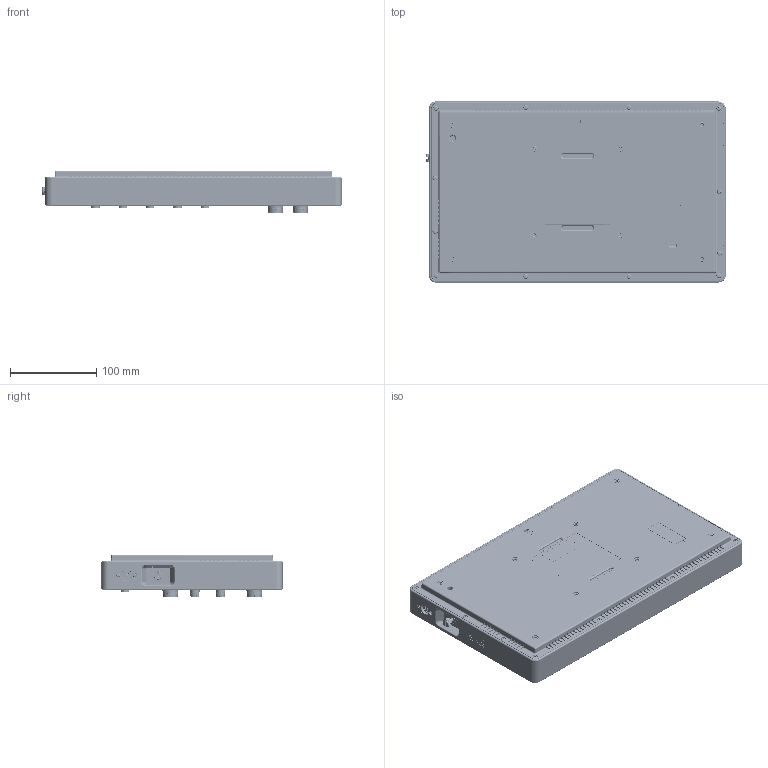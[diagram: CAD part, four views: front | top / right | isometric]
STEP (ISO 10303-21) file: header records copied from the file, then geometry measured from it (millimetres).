
FILE_DESCRIPTION((''),'2;1');
FILE_NAME('2-SERIES_MSO_SIMPLIFIED_ASM','2023-03-27T14:32:22',('mthomps2'),(''),'CREO PARAMETRIC BY PTC INC, 2022284','CREO PARAMETRIC BY PTC INC, 2022284','');
FILE_SCHEMA(('CONFIG_CONTROL_DESIGN','SHAPE_APPEARANCE_LAYERS_GROUPS'));
Products named in the file (24): SIMPLIFIED_MODEL_LXN_1_1; SIMPLIFIED_MODEL_LXN_1_2; SIMPLIFIED_MODEL_LXN_1_3; SIMPLIFIED_MODEL_LXN_1_4; SIMPLIFIED_MODEL_LXN_1_5; SIMPLIFIED_MODEL_LXN_1_6; SIMPLIFIED_MODEL_LXN_1_7; SIMPLIFIED_MODEL_LXN_1_8; SIMPLIFIED_MODEL_LXN_1_9; SIMPLIFIED_MODEL_LXN_1_10; SIMPLIFIED_MODEL_LXN_1_11; SIMPLIFIED_MODEL_LXN_1_12; SIMPLIFIED_MODEL_LXN_1_13; SIMPLIFIED_MODEL_LXN_1_14; SIMPLIFIED_MODEL_LXN_1_15; SIMPLIFIED_MODEL_LXN_1_16; SIMPLIFIED_MODEL_LXN_1_17; SIMPLIFIED_MODEL_LXN_1_18; SIMPLIFIED_MODEL_LXN_1_19; SIMPLIFIED_MODEL_LXN_1_20; SIMPLIFIED_MODEL_LXN_1_21; SIMPLIFIED_MODEL_LXN_1_22; SIMPLIFIED_MODEL_LXN_1_ASM; 2-SERIES_MSO_SIMPLIFIED_ASM
Assembly tree (23 placements, depth 3):
  2-SERIES_MSO_SIMPLIFIED_ASM
    SIMPLIFIED_MODEL_LXN_1_ASM
      SIMPLIFIED_MODEL_LXN_1_1
      SIMPLIFIED_MODEL_LXN_1_2
      SIMPLIFIED_MODEL_LXN_1_3
      SIMPLIFIED_MODEL_LXN_1_4
      SIMPLIFIED_MODEL_LXN_1_5
      SIMPLIFIED_MODEL_LXN_1_6
      SIMPLIFIED_MODEL_LXN_1_7
      SIMPLIFIED_MODEL_LXN_1_8
      SIMPLIFIED_MODEL_LXN_1_9
      SIMPLIFIED_MODEL_LXN_1_10
      SIMPLIFIED_MODEL_LXN_1_11
      SIMPLIFIED_MODEL_LXN_1_12
      SIMPLIFIED_MODEL_LXN_1_13
      SIMPLIFIED_MODEL_LXN_1_14
      SIMPLIFIED_MODEL_LXN_1_15
      SIMPLIFIED_MODEL_LXN_1_16
      SIMPLIFIED_MODEL_LXN_1_17
      SIMPLIFIED_MODEL_LXN_1_18
      SIMPLIFIED_MODEL_LXN_1_19
      SIMPLIFIED_MODEL_LXN_1_20
      SIMPLIFIED_MODEL_LXN_1_21
      SIMPLIFIED_MODEL_LXN_1_22
Bounding box: 347.15 x 210 x 49.48 mm (x, y, z)
Topology: 21 solids, 57 shells, 7496 faces, 21099 edges, 13935 vertices
Faces by surface type: plane 3568, cylinder 1913, cone 915, torus 551, sphere 209, extrusion 175, bspline 165
Entity records: 312428 total; most frequent: CARTESIAN_POINT 78217, ORIENTED_EDGE 41756, DIRECTION 34808, EDGE_CURVE 21084, VERTEX_POINT 13935, AXIS2_PLACEMENT_3D 12370, VECTOR 10068, LINE 9893
